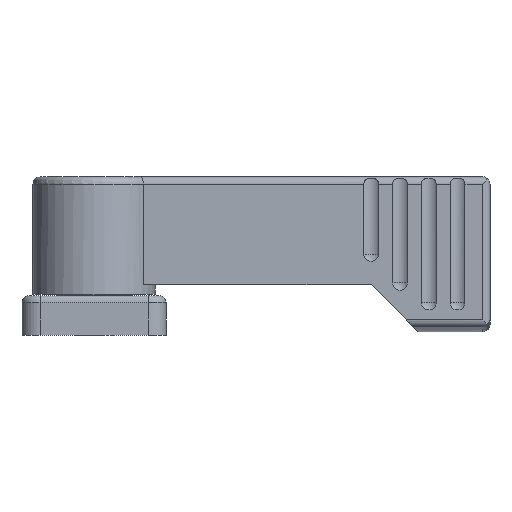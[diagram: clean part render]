
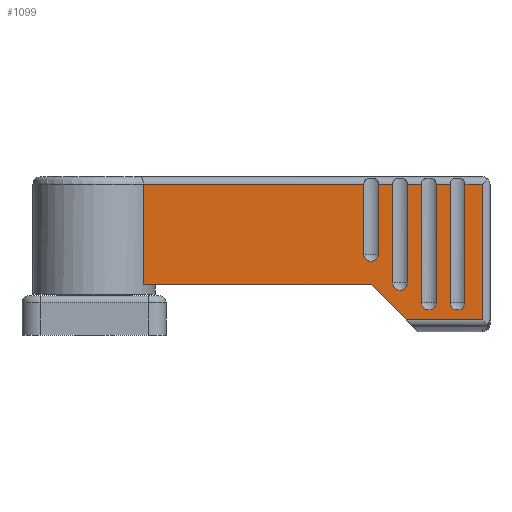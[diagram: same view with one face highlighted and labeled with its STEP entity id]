
A CAD part, front view. The second image highlights one B-rep face of the part: STEP entity #1099.
In plain terms, the highlighted planar face has unit normal (0, -1, 0) as drawn and (0, 0, 1) by its records, which use the part's own axes.
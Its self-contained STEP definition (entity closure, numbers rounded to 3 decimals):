
#141=CIRCLE('',#1240,1.02);
#142=CIRCLE('',#1241,1.02);
#143=CIRCLE('',#1242,1.02);
#144=CIRCLE('',#1243,1.02);
#302=ORIENTED_EDGE('',*,*,#548,.F.);
#303=ORIENTED_EDGE('',*,*,#549,.F.);
#304=ORIENTED_EDGE('',*,*,#550,.F.);
#305=ORIENTED_EDGE('',*,*,#551,.F.);
#306=ORIENTED_EDGE('',*,*,#552,.F.);
#307=ORIENTED_EDGE('',*,*,#553,.F.);
#308=ORIENTED_EDGE('',*,*,#554,.F.);
#309=ORIENTED_EDGE('',*,*,#555,.F.);
#310=ORIENTED_EDGE('',*,*,#556,.F.);
#311=ORIENTED_EDGE('',*,*,#557,.F.);
#312=ORIENTED_EDGE('',*,*,#558,.F.);
#313=ORIENTED_EDGE('',*,*,#559,.F.);
#314=ORIENTED_EDGE('',*,*,#560,.F.);
#315=ORIENTED_EDGE('',*,*,#561,.F.);
#316=ORIENTED_EDGE('',*,*,#562,.F.);
#317=ORIENTED_EDGE('',*,*,#563,.T.);
#318=ORIENTED_EDGE('',*,*,#564,.T.);
#319=ORIENTED_EDGE('',*,*,#565,.T.);
#320=ORIENTED_EDGE('',*,*,#538,.T.);
#321=ORIENTED_EDGE('',*,*,#543,.F.);
#322=ORIENTED_EDGE('',*,*,#566,.F.);
#323=ORIENTED_EDGE('',*,*,#567,.F.);
#538=EDGE_CURVE('',#675,#674,#755,.T.);
#543=EDGE_CURVE('',#677,#674,#756,.T.);
#548=EDGE_CURVE('',#680,#681,#141,.T.);
#549=EDGE_CURVE('',#682,#680,#758,.F.);
#550=EDGE_CURVE('',#683,#682,#759,.T.);
#551=EDGE_CURVE('',#684,#683,#760,.T.);
#552=EDGE_CURVE('',#685,#684,#142,.T.);
#553=EDGE_CURVE('',#686,#685,#761,.F.);
#554=EDGE_CURVE('',#687,#686,#762,.T.);
#555=EDGE_CURVE('',#688,#687,#763,.T.);
#556=EDGE_CURVE('',#689,#688,#143,.T.);
#557=EDGE_CURVE('',#690,#689,#764,.F.);
#558=EDGE_CURVE('',#691,#690,#765,.T.);
#559=EDGE_CURVE('',#692,#691,#766,.T.);
#560=EDGE_CURVE('',#693,#692,#144,.T.);
#561=EDGE_CURVE('',#694,#693,#767,.F.);
#562=EDGE_CURVE('',#695,#694,#768,.T.);
#563=EDGE_CURVE('',#695,#696,#769,.F.);
#564=EDGE_CURVE('',#696,#697,#770,.T.);
#565=EDGE_CURVE('',#697,#675,#771,.T.);
#566=EDGE_CURVE('',#698,#677,#772,.T.);
#567=EDGE_CURVE('',#681,#698,#773,.T.);
#674=VERTEX_POINT('',#1819);
#675=VERTEX_POINT('',#1821);
#677=VERTEX_POINT('',#1831);
#680=VERTEX_POINT('',#1845);
#681=VERTEX_POINT('',#1846);
#682=VERTEX_POINT('',#1848);
#683=VERTEX_POINT('',#1850);
#684=VERTEX_POINT('',#1852);
#685=VERTEX_POINT('',#1854);
#686=VERTEX_POINT('',#1856);
#687=VERTEX_POINT('',#1858);
#688=VERTEX_POINT('',#1860);
#689=VERTEX_POINT('',#1862);
#690=VERTEX_POINT('',#1864);
#691=VERTEX_POINT('',#1866);
#692=VERTEX_POINT('',#1868);
#693=VERTEX_POINT('',#1870);
#694=VERTEX_POINT('',#1872);
#695=VERTEX_POINT('',#1874);
#696=VERTEX_POINT('',#1876);
#697=VERTEX_POINT('',#1878);
#698=VERTEX_POINT('',#1881);
#755=LINE('',#1820,#820);
#756=LINE('',#1832,#821);
#758=LINE('',#1847,#823);
#759=LINE('',#1849,#824);
#760=LINE('',#1851,#825);
#761=LINE('',#1855,#826);
#762=LINE('',#1857,#827);
#763=LINE('',#1859,#828);
#764=LINE('',#1863,#829);
#765=LINE('',#1865,#830);
#766=LINE('',#1867,#831);
#767=LINE('',#1871,#832);
#768=LINE('',#1873,#833);
#769=LINE('',#1875,#834);
#770=LINE('',#1877,#835);
#771=LINE('',#1879,#836);
#772=LINE('',#1880,#837);
#773=LINE('',#1882,#838);
#820=VECTOR('',#1477,1000.);
#821=VECTOR('',#1486,1000.);
#823=VECTOR('',#1498,1000.);
#824=VECTOR('',#1499,1000.);
#825=VECTOR('',#1500,1000.);
#826=VECTOR('',#1503,1000.);
#827=VECTOR('',#1504,1000.);
#828=VECTOR('',#1505,1000.);
#829=VECTOR('',#1508,1000.);
#830=VECTOR('',#1509,1000.);
#831=VECTOR('',#1510,1000.);
#832=VECTOR('',#1513,1000.);
#833=VECTOR('',#1514,1000.);
#834=VECTOR('',#1515,1000.);
#835=VECTOR('',#1516,1000.);
#836=VECTOR('',#1517,1000.);
#837=VECTOR('',#1518,1000.);
#838=VECTOR('',#1519,1000.);
#910=EDGE_LOOP('',(#302,#303,#304,#305,#306,#307,#308,#309,#310,#311,#312,
#313,#314,#315,#316,#317,#318,#319,#320,#321,#322,#323));
#1003=FACE_BOUND('',#910,.T.);
#1055=PLANE('',#1239);
#1099=ADVANCED_FACE('',(#1003),#1055,.T.);
#1239=AXIS2_PLACEMENT_3D('',#1843,#1494,#1495);
#1240=AXIS2_PLACEMENT_3D('',#1844,#1496,#1497);
#1241=AXIS2_PLACEMENT_3D('',#1853,#1501,#1502);
#1242=AXIS2_PLACEMENT_3D('',#1861,#1506,#1507);
#1243=AXIS2_PLACEMENT_3D('',#1869,#1511,#1512);
#1477=DIRECTION('',(1.,0.,0.));
#1486=DIRECTION('',(0.,-1.,0.));
#1494=DIRECTION('',(0.,0.,1.));
#1495=DIRECTION('',(1.,0.,0.));
#1496=DIRECTION('',(0.,0.,1.));
#1497=DIRECTION('',(1.,0.,0.));
#1498=DIRECTION('',(0.,1.,0.));
#1499=DIRECTION('',(1.,0.,0.));
#1500=DIRECTION('',(0.,1.,0.));
#1501=DIRECTION('',(0.,0.,1.));
#1502=DIRECTION('',(1.,0.,0.));
#1503=DIRECTION('',(0.,1.,0.));
#1504=DIRECTION('',(1.,0.,0.));
#1505=DIRECTION('',(0.,1.,0.));
#1506=DIRECTION('',(0.,0.,1.));
#1507=DIRECTION('',(1.,0.,0.));
#1508=DIRECTION('',(0.,1.,0.));
#1509=DIRECTION('',(1.,0.,0.));
#1510=DIRECTION('',(0.,1.,0.));
#1511=DIRECTION('',(0.,0.,1.));
#1512=DIRECTION('',(1.,0.,0.));
#1513=DIRECTION('',(0.,1.,0.));
#1514=DIRECTION('',(1.,0.,0.));
#1515=DIRECTION('',(0.,1.,0.));
#1516=DIRECTION('',(1.,0.,0.));
#1517=DIRECTION('',(0.707,-0.707,0.));
#1518=DIRECTION('',(1.,0.,0.));
#1519=DIRECTION('',(0.,1.,0.));
#1819=CARTESIAN_POINT('',(54.,-3.569,5.));
#1820=CARTESIAN_POINT('',(0.,-3.569,5.));
#1821=CARTESIAN_POINT('',(43.369,-3.569,5.));
#1831=CARTESIAN_POINT('',(54.,15.3,5.));
#1832=CARTESIAN_POINT('',(54.,20.,5.));
#1843=CARTESIAN_POINT('',(54.,15.3,5.));
#1844=CARTESIAN_POINT('',(50.5,-1.18,5.));
#1845=CARTESIAN_POINT('',(49.48,-1.18,5.));
#1846=CARTESIAN_POINT('',(51.52,-1.18,5.));
#1847=CARTESIAN_POINT('',(49.48,-1.18,5.));
#1848=CARTESIAN_POINT('',(49.48,15.3,5.));
#1849=CARTESIAN_POINT('',(0.,15.3,5.));
#1850=CARTESIAN_POINT('',(47.52,15.3,5.));
#1851=CARTESIAN_POINT('',(47.52,-1.18,5.));
#1852=CARTESIAN_POINT('',(47.52,-1.18,5.));
#1853=CARTESIAN_POINT('',(46.5,-1.18,5.));
#1854=CARTESIAN_POINT('',(45.48,-1.18,5.));
#1855=CARTESIAN_POINT('',(45.48,-1.18,5.));
#1856=CARTESIAN_POINT('',(45.48,15.3,5.));
#1857=CARTESIAN_POINT('',(0.,15.3,5.));
#1858=CARTESIAN_POINT('',(43.52,15.3,5.));
#1859=CARTESIAN_POINT('',(43.52,1.57,5.));
#1860=CARTESIAN_POINT('',(43.52,1.57,5.));
#1861=CARTESIAN_POINT('',(42.5,1.57,5.));
#1862=CARTESIAN_POINT('',(41.48,1.57,5.));
#1863=CARTESIAN_POINT('',(41.48,1.57,5.));
#1864=CARTESIAN_POINT('',(41.48,15.3,5.));
#1865=CARTESIAN_POINT('',(0.,15.3,5.));
#1866=CARTESIAN_POINT('',(39.52,15.3,5.));
#1867=CARTESIAN_POINT('',(39.52,5.57,5.));
#1868=CARTESIAN_POINT('',(39.52,5.57,5.));
#1869=CARTESIAN_POINT('',(38.5,5.57,5.));
#1870=CARTESIAN_POINT('',(37.48,5.57,5.));
#1871=CARTESIAN_POINT('',(37.48,5.57,5.));
#1872=CARTESIAN_POINT('',(37.48,15.3,5.));
#1873=CARTESIAN_POINT('',(0.,15.3,5.));
#1874=CARTESIAN_POINT('',(6.874,15.3,5.));
#1875=CARTESIAN_POINT('',(6.874,16.3,5.));
#1876=CARTESIAN_POINT('',(6.874,1.3,5.));
#1877=CARTESIAN_POINT('',(0.,1.3,5.));
#1878=CARTESIAN_POINT('',(38.5,1.3,5.));
#1879=CARTESIAN_POINT('',(38.5,1.3,5.));
#1880=CARTESIAN_POINT('',(0.,15.3,5.));
#1881=CARTESIAN_POINT('',(51.52,15.3,5.));
#1882=CARTESIAN_POINT('',(51.52,-1.18,5.));
